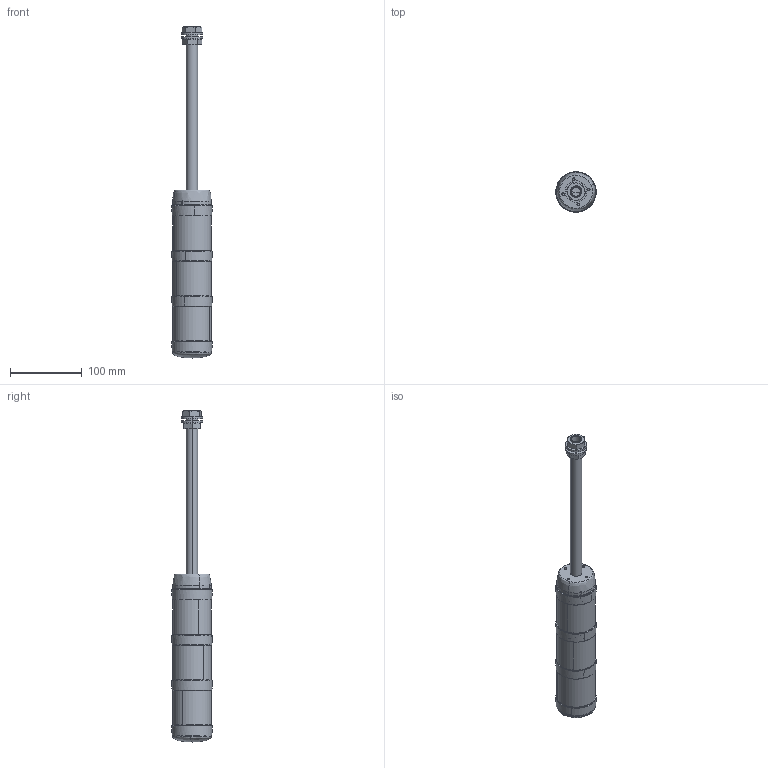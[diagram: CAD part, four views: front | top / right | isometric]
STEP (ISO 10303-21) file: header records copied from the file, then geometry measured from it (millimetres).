
FILE_DESCRIPTION (( 'STEP AP214' ), '1' );
FILE_NAME ('22093xx3xxx-outline Rohr250.STEP', '2007-07-04T07:12:33', ( ' ' ), ( ' ' ), 'SwSTEP 2.0', 'SolidWorks 2007', '' );
FILE_SCHEMA (( 'AUTOMOTIVE_DESIGN' ));
Length unit declared in the file: millimetre
Products named in the file (1): 22093xx3xxx-outline Rohr250
Bounding box: 55.93 x 55.98 x 461.35 mm (x, y, z)
Surface area: 78260.5 mm2 (no closed solid volume)
Topology: 0 solids, 22 shells, 161 faces, 733 edges, 585 vertices
Faces by surface type: plane 71, bspline 33, cylinder 29, cone 28
Entity records: 9649 total; most frequent: CARTESIAN_POINT 2273, DIRECTION 1143, ORIENTED_EDGE 1017, EDGE_CURVE 731, VERTEX_POINT 585, AXIS2_PLACEMENT_3D 400, VECTOR 343, LINE 343
